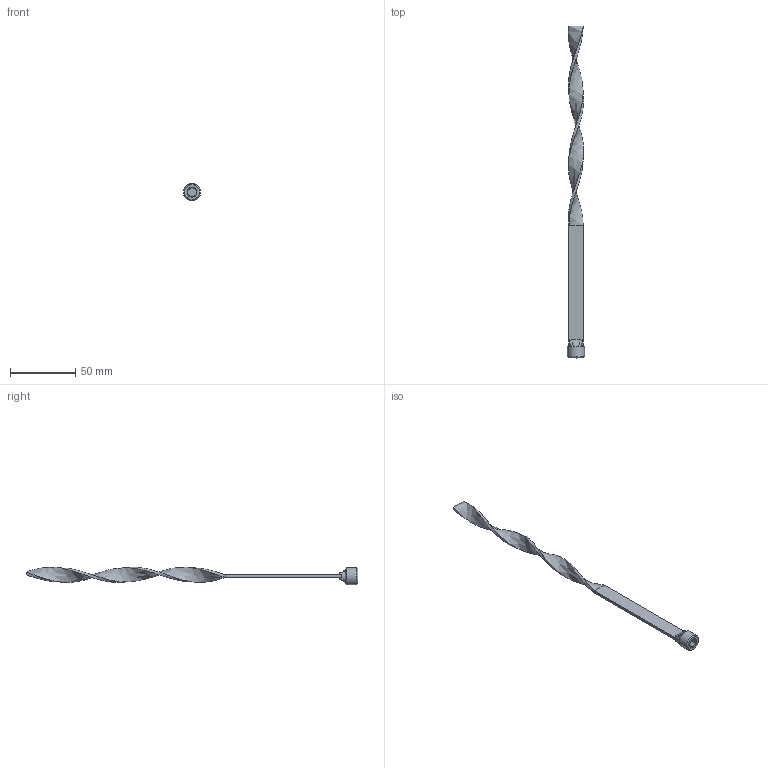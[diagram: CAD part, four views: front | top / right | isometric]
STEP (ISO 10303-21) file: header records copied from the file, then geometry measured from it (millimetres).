
FILE_DESCRIPTION(/* description */ (''),/* implementation_level */ '2;1');
FILE_NAME(/* name */ 'C:/Users/drich/Desktop/TB14X10BSP v1.step',/* time_stamp */ '2020-01-14T09:24:46-06:00',/* author */ (''),/* organization */ (''),/* preprocessor_version */ 'ST-DEVELOPER v18',/* originating_system */ 'Autodesk Translation Framework v8.12.0.6',/* authorisation */ '');
FILE_SCHEMA (('AUTOMOTIVE_DESIGN { 1 0 10303 214 3 1 1 }'));
Length unit declared in the file: inch
Products named in the file (1): TB14X10BSP
Bounding box: 13.03 x 254 x 13.41 mm (x, y, z)
Volume: 6930.2 mm3; surface area: 7238.3 mm2
Topology: 2 solids, 2 shells, 45 faces, 115 edges, 75 vertices
Faces by surface type: plane 21, bspline 10, cylinder 6, torus 5, cone 3
Full cylindrical faces by diameter (mm): 10.82 x1, 13.032 x1
Entity records: 2065 total; most frequent: CARTESIAN_POINT 983, ORIENTED_EDGE 230, DIRECTION 199, EDGE_CURVE 115, AXIS2_PLACEMENT_3D 76, VERTEX_POINT 75, LINE 47, VECTOR 47
